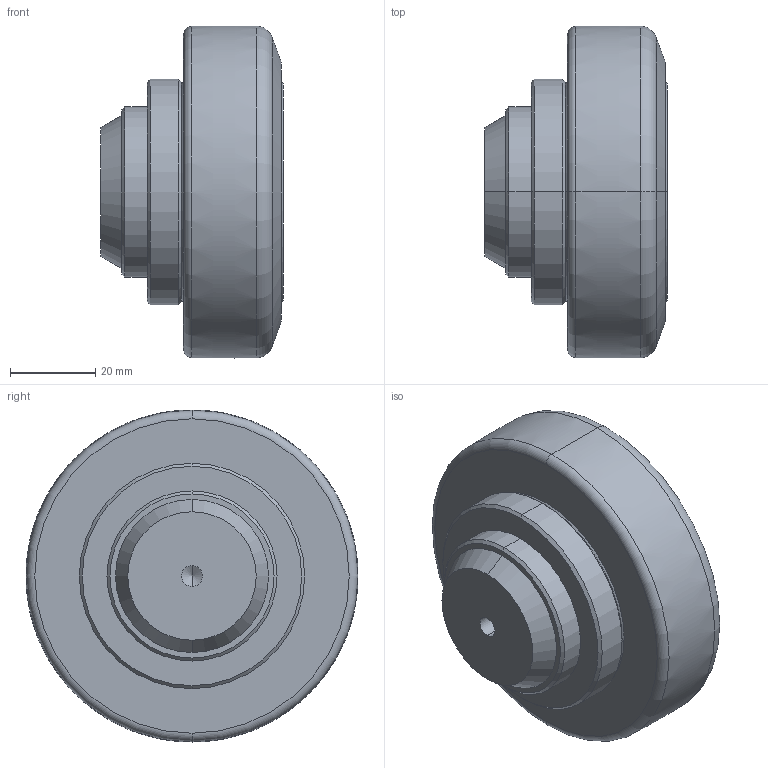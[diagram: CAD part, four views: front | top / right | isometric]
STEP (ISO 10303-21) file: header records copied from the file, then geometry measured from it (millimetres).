
FILE_DESCRIPTION (( 'STEP AP214' ), '1' );
FILE_NAME ('3D9.2102.STEP', '2013-12-17T05:20:36', ( 'usuario' ), ( 'Hewlett-Packard Company' ), 'SwSTEP 2.0', 'SolidWorks 2017', '' );
FILE_SCHEMA (( 'AUTOMOTIVE_DESIGN' ));
Length unit declared in the file: millimetre
Products named in the file (1): 3D9.2102
Bounding box: 43 x 78.09 x 78.1 mm (x, y, z)
Volume: 137776.3 mm3; surface area: 16913.7 mm2
Topology: 1 solids, 1 shells, 35 faces, 70 edges, 41 vertices
Faces by surface type: cone 16, plane 7, cylinder 6, torus 6
Entity records: 938 total; most frequent: DIRECTION 186, CARTESIAN_POINT 145, ORIENTED_EDGE 136, AXIS2_PLACEMENT_3D 82, EDGE_CURVE 68, CIRCLE 46, VERTEX_POINT 41, EDGE_LOOP 41
